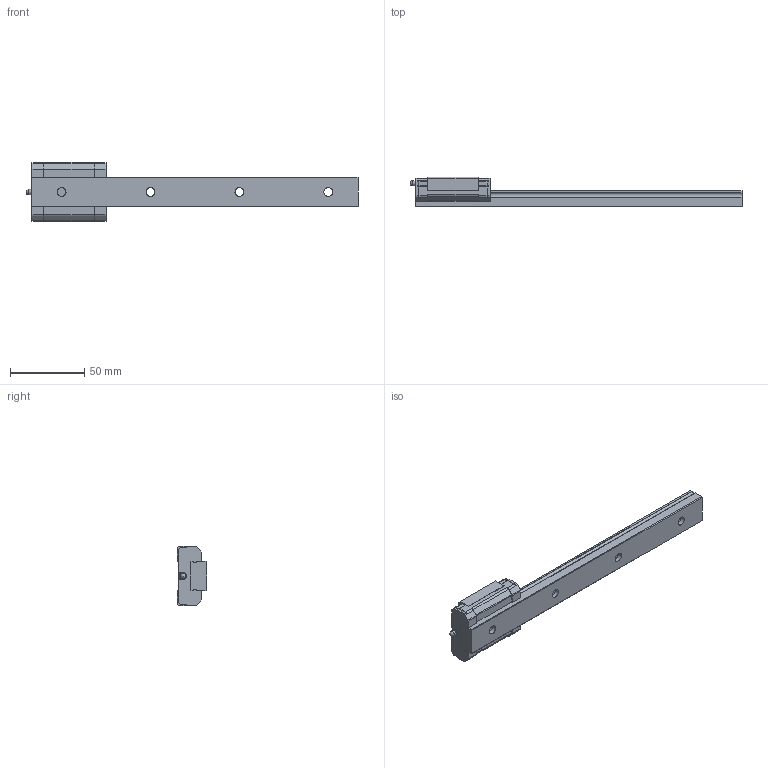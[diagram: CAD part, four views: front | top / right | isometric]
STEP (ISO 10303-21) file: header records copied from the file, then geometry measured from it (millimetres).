
FILE_DESCRIPTION(/* description */ ('STEP AP203'),/* implementation_level */ '2;1');
FILE_NAME(/* name */ 'SRS20GMSS-220LM_G20_0_PB107_0_0_0_0_1',/* time_stamp */ '2024-05-15T12:24:37+02:00',/* author */ ('License CC BY-ND 4.0'),/* organization */ ('CADENAS'),/* preprocessor_version */ 'ST-DEVELOPER v19.3',/* originating_system */ 'PARTsolutions',/* authorisation */ ' ');
FILE_SCHEMA (('CONFIG_CONTROL_DESIGN'));
Length unit declared in the file: millimetre
Products named in the file (4): SRS20GMSS-220LM_G20_0_PB107_0_0_0_0_1; SRS20GM22020 Track; SRS20GMSSPB1071 Slider; PB107-SRS Grease Nipple Joint
Assembly tree (3 placements, depth 2):
  SRS20GMSS-220LM_G20_0_PB107_0_0_0_0_1
    SRS20GM22020 Track
    SRS20GMSSPB1071 Slider
    PB107-SRS Grease Nipple Joint
Bounding box: 224 x 20 x 40 mm (x, y, z)
Volume: 67954.3 mm3; surface area: 22713.3 mm2
Topology: 3 solids, 3 shells, 209 faces, 568 edges, 372 vertices
Faces by surface type: plane 123, cylinder 77, cone 8, sphere 1
Full cylindrical faces by diameter (mm): 3 x3, 3.242 x4, 3.5 x1, 4.5 x1, 6 x4, 9.5 x4
Entity records: 6501 total; most frequent: DIRECTION 1124, CARTESIAN_POINT 1111, ORIENTED_EDGE 1064, EDGE_CURVE 532, AXIS2_PLACEMENT_3D 379, VERTEX_POINT 366, LINE 366, VECTOR 366
